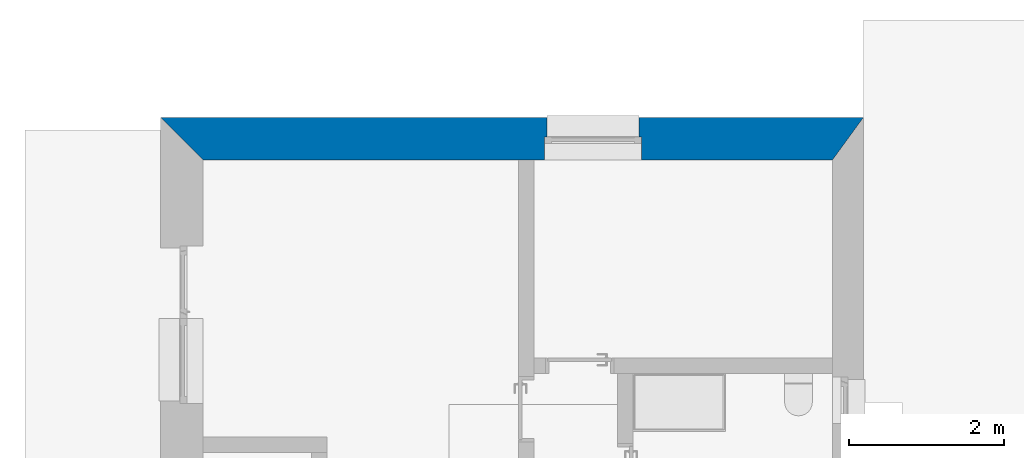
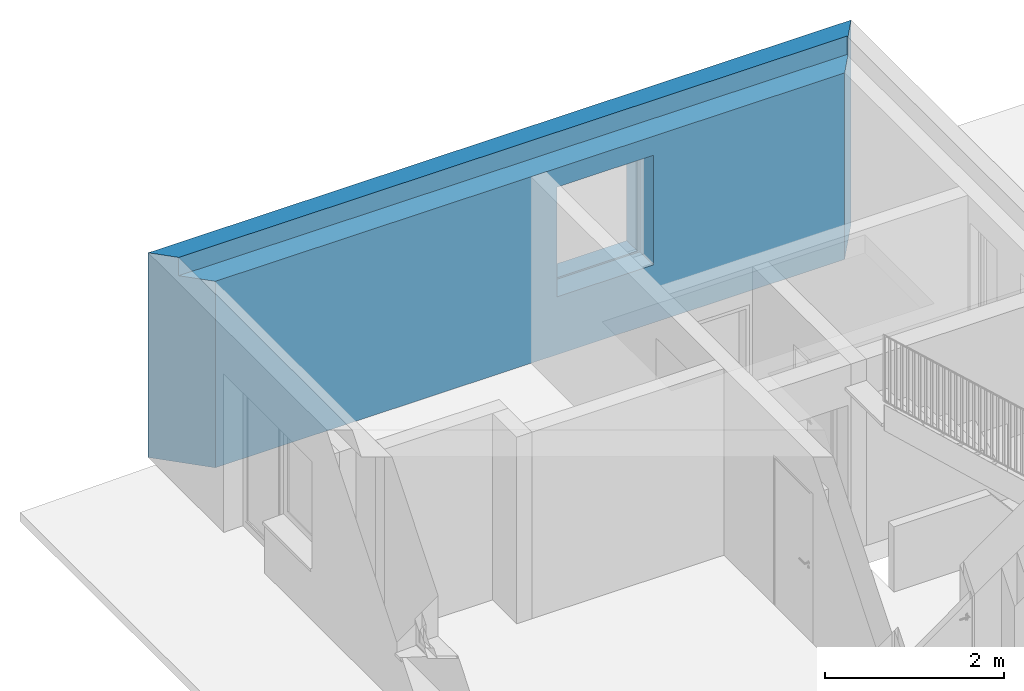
# One storey, part 8 of 18: 1 wall.
"""IFC2X3 building model written with IfcOpenShell, lengths in metres."""

from ifc_helpers import new_model, entity, si_unit, converted_unit, derived_unit, direction, frame, origin, place, context, subcontext, project, spatial, faceted_brep, material, layer, layer_set, type_object, element, save


model = new_model("IFC2X3")

# Units and contexts
model_context = context("Model", 3, precision=1e-05, world=origin(), true_north=direction((6.123233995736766e-17, 1.0)))
body_context = subcontext(model_context, "Body", "Model", "MODEL_VIEW")
ifc_project = project(units=[si_unit("LENGTHUNIT", "METRE"), si_unit("AREAUNIT", "SQUARE_METRE"), si_unit("VOLUMEUNIT", "CUBIC_METRE"), si_unit("POWERUNIT", "WATT"), derived_unit("USERDEFINED", [(si_unit("MASSUNIT", "GRAM", prefix="KILO"), 1), (si_unit("TIMEUNIT", "SECOND"), -3)]), derived_unit("THERMALRESISTANCEUNIT", [(si_unit("MASSUNIT", "GRAM", prefix="KILO"), -1), (si_unit("TIMEUNIT", "SECOND"), 3), (si_unit("THERMODYNAMICTEMPERATUREUNIT", "KELVIN"), 1)]), derived_unit("USERDEFINED", [(si_unit("MASSUNIT", "GRAM", prefix="KILO"), 1), (si_unit("TIMEUNIT", "SECOND"), -2), (si_unit("THERMODYNAMICTEMPERATUREUNIT", "KELVIN"), -1)]), derived_unit("THERMALTRANSMITTANCEUNIT", [(si_unit("MASSUNIT", "GRAM", prefix="KILO"), 1), (si_unit("TIMEUNIT", "SECOND"), -3), (si_unit("THERMODYNAMICTEMPERATUREUNIT", "KELVIN"), -1)]), converted_unit("PLANEANGLEUNIT", "DEGREE", entity("IfcPlaneAngleMeasure", 0.017453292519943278), si_unit("PLANEANGLEUNIT", "RADIAN"), dimensions=[0, 0, 0, 0, 0, 0, 0]), derived_unit("MOMENTOFINERTIAUNIT", [(si_unit("LENGTHUNIT", "METRE"), 4)])], contexts=[model_context])

# Site, building, storey
site_placement = place(None, origin())
site = spatial("IfcSite", under=ifc_project, at=site_placement, Name="Default", CompositionType="ELEMENT")
building_placement = place(site_placement, origin())
building = spatial("IfcBuilding", under=site, at=building_placement, CompositionType="ELEMENT")
storey_placement = place(building_placement, frame((0.0, 0.0, 2.6)))
storey = spatial("IfcBuildingStorey", under=building, at=storey_placement, Name="Erdgeschoss", CompositionType="ELEMENT", Elevation=2.6)

# Wall
ifc_material_1 = material(Name="Dämmung - hart")
ifc_layer_1 = layer(ifc_material_1, 0.24999999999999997)
ifc_material_2 = material(Name="Mauerwerk - Ziegel")
ifc_layer_2 = layer(ifc_material_2, 0.29999999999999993)
ifc_layer_set = layer_set([ifc_layer_1, ifc_layer_2], Name="Basiswand:Ziegel+WD hart 300+250")
wall_type = type_object("IfcWallType", Name="Basiswand:Ziegel+WD hart 300+250", PredefinedType="STANDARD", material=ifc_layer_set)
wall_placement = place(storey_placement, frame((38.62672000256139, 28.317272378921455, 0.0), z_axis=(0.0, 0.0, 1.0), x_axis=(-1.0, 0.0, 0.0)))
element("IfcWall", 1, at=wall_placement, inside=storey, type_object=wall_type, Name="Basiswand:Ziegel+WD hart 300+250", ObjectType="Basiswand:Ziegel+WD hart 300+250", context=body_context, shape_type="Brep", body=[
    faceted_brep([(0.0, -0.27500000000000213, 0.0), (9.090000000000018, -0.27500000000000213, 0.0), (9.090000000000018, -0.27500000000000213, 2.8000000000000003), (0.0, -0.27500000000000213, 2.8000000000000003), (2.9029651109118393, -0.27500000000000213, 0.8000000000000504), (2.9029651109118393, -0.27500000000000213, 2.2600000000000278), (4.092965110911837, -0.2749999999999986, 2.2600000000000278), (4.092965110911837, -0.2749999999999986, 0.8000000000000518), (8.540000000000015, 0.2749999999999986, 0.0), (4.457965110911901, 0.27500000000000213, 0.0), (4.257965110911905, 0.27500000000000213, 0.0), (0.40000000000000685, 0.2749999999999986, 0.0), (0.40000000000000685, 0.2749999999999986, 2.550000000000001), (4.257965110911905, 0.27500000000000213, 2.550000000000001), (4.457965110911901, 0.27500000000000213, 2.550000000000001), (8.540000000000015, 0.2749999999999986, 2.550000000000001), (4.122965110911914, 0.27500000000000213, 2.2899999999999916), (2.8729651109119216, 0.2749999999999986, 2.2899999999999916), (2.8729651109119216, 0.2749999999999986, 0.7900000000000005), (4.122965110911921, 0.27500000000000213, 0.7900000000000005), (8.840000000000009, -0.024999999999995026, 2.8000000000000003), (0.2000000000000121, -0.024999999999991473, 2.8000000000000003), (0.20000000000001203, 0.0, 2.8000000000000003), (8.840000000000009, -0.024999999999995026, 2.550000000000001), (0.20000000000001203, 0.0, 2.550000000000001), (0.2000000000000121, -0.024999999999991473, 2.550000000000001), (4.122965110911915, -0.025000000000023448, 2.2899999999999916), (2.8729651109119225, -0.025000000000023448, 2.2899999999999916), (4.122965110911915, -0.025000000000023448, 0.7900000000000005), (2.8729651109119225, -0.025000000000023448, 0.7900000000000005), (2.9029651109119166, -0.025000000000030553, 2.2600000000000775), (2.9029651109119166, -0.025000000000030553, 0.8100000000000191), (4.092965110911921, -0.025000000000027, 0.8100000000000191), (4.092965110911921, -0.025000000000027, 2.2600000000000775)], [[[0, 1, 2, 3], [4, 5, 6, 7]], [[8, 9, 10, 11, 12, 13, 14, 15], [16, 17, 18, 19]], [[1, 0, 11, 10, 9, 8]], [[3, 2, 20, 21, 22]], [[2, 1, 8, 15, 23, 20]], [[0, 3, 22, 24, 12, 11]], [[25, 23, 15, 14, 13, 12, 24]], [[23, 25, 21, 20]], [[26, 27, 17, 16]], [[28, 19, 18, 29]], [[26, 16, 19, 28]], [[17, 27, 29, 18]], [[27, 26, 28, 29], [30, 31, 32, 33]], [[31, 30, 5, 4]], [[32, 31, 4, 7]], [[33, 32, 7, 6]], [[30, 33, 6, 5]], [[21, 25, 24, 22]]]),
])

save(model, "model.ifc")
